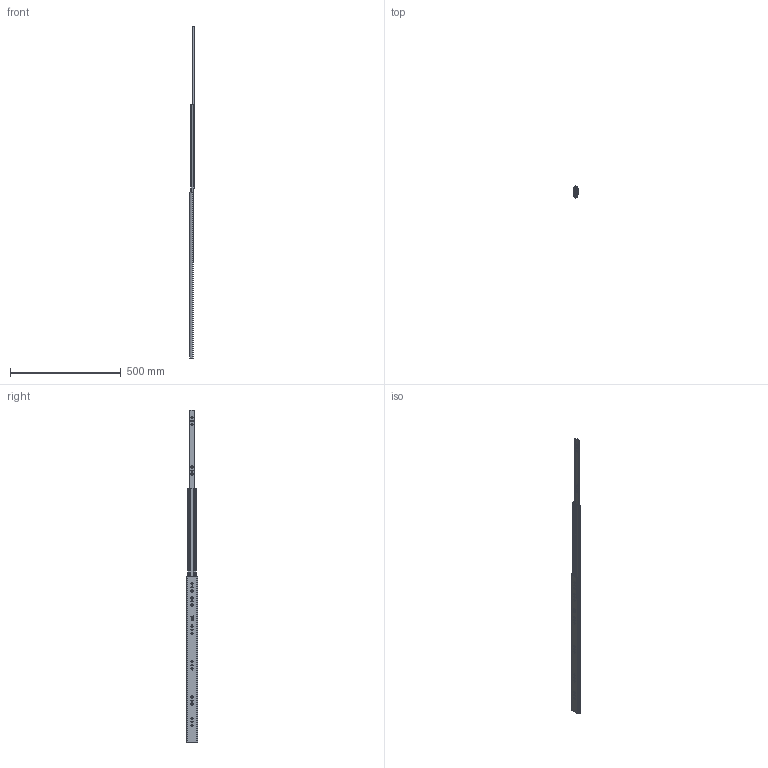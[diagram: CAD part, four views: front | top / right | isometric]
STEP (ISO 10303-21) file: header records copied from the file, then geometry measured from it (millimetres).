
FILE_DESCRIPTION (( 'STEP AP214' ), '1' );
FILE_NAME ('DSCHMD750MM-OPEN.STEP', '2018-11-27T06:41:13', ( '' ), ( '' ), 'SwSTEP 2.0', 'SolidWorks 2017', '' );
FILE_SCHEMA (( 'AUTOMOTIVE_DESIGN' ));
Length unit declared in the file: millimetre
Products named in the file (4): DSCHMD-2_750; DSCHMD-3_750; DSCHMD-1_750; DSCHMD750MM-OPEN
Assembly tree (3 placements, depth 2):
  DSCHMD750MM-OPEN
    DSCHMD-3_750
    DSCHMD-2_750
    DSCHMD-1_750
Bounding box: 18.7 x 53 x 1500 mm (x, y, z)
Volume: 250688.5 mm3; surface area: 262576.7 mm2
Topology: 3 solids, 3 shells, 1166 faces, 3282 edges, 2188 vertices
Faces by surface type: plane 611, cylinder 238, bspline 237, cone 80
Entity records: 39586 total; most frequent: CARTESIAN_POINT 10551, ORIENTED_EDGE 6564, DIRECTION 5074, EDGE_CURVE 3282, VERTEX_POINT 2188, LINE 2092, VECTOR 2092, AXIS2_PLACEMENT_3D 1491
